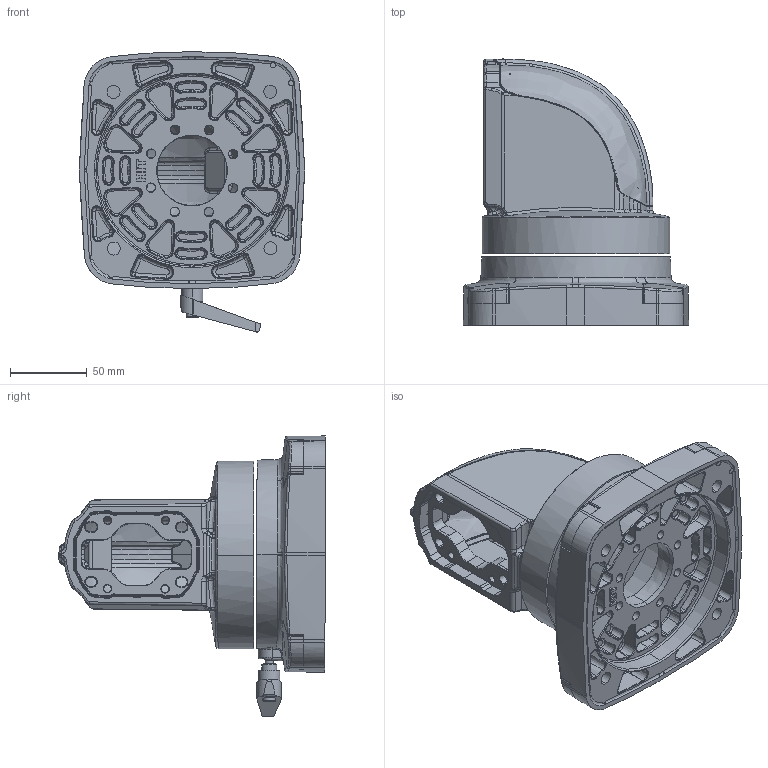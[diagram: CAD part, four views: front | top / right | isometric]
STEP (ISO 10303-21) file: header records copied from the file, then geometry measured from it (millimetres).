
FILE_DESCRIPTION (( 'STEP AP203' ), '1' );
FILE_NAME ('TP.060.1234.STEP', '2026-09-30T08:54:09', ( '' ), ( '' ), 'SwSTEP 2.0', 'SolidWorks 2015', '' );
FILE_SCHEMA (( 'CONFIG_CONTROL_DESIGN' ));
Products named in the file (7): TP.060.Kapak; TP.060.600; kapak vida; TP.060.200; TP.060.200_1; TP.060.Serrated Washer; TP.060.1234
Assembly tree (7 placements, depth 3):
  TP.060.1234
    TP.060.600
    TP.060.200_1
      TP.060.200
      TP.060.Kapak
    TP.060.Serrated Washer
    kapak vida  x2
Bounding box: 146.69 x 173.69 x 182.43 mm (x, y, z)
Volume: 328898.9 mm3; surface area: 210456.4 mm2
Topology: 6 solids, 9 shells, 3828 faces, 9515 edges, 5734 vertices
Faces by surface type: bspline 2495, plane 422, cylinder 405, cone 337, torus 127, sphere 42
Entity records: 279623 total; most frequent: CARTESIAN_POINT 208832, ORIENTED_EDGE 18853, EDGE_CURVE 9433, DIRECTION 7077, B_SPLINE_CURVE_WITH_KNOTS 6311, VERTEX_POINT 5704, EDGE_LOOP 3944, ADVANCED_FACE 3800
